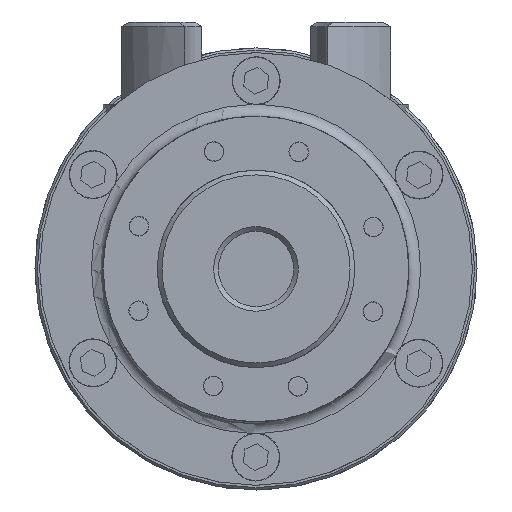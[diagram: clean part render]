
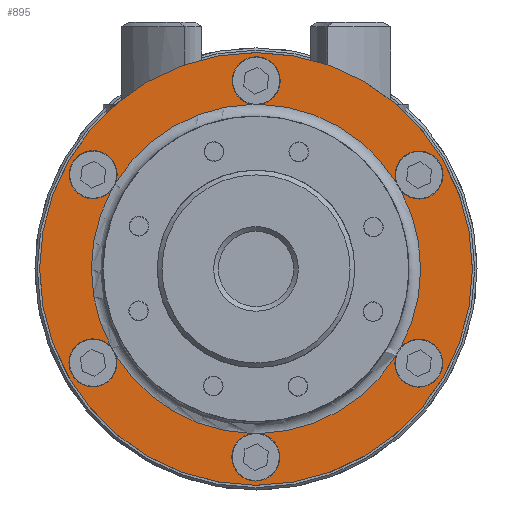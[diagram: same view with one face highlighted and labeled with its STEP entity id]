
A CAD part, left-side view. The second image highlights one B-rep face of the part: STEP entity #895.
In plain terms, the highlighted planar face has unit normal (-1, 0, 0).
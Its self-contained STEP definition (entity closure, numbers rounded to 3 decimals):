
#895 = ADVANCED_FACE( '', ( #1714, #1715 ), #1716, .F. );
#1714 = FACE_OUTER_BOUND( '', #2858, .T. );
#1715 = FACE_BOUND( '', #2859, .T. );
#1716 = PLANE( '', #2860 );
#2858 = EDGE_LOOP( '', ( #4575 ) );
#2859 = EDGE_LOOP( '', ( #4576, #4577, #4578, #4579, #4580, #4581, #4582, #4583, #4584, #4585, #4586, #4587 ) );
#2860 = AXIS2_PLACEMENT_3D( '', #4588, #4589, #4590 );
#4575 = ORIENTED_EDGE( '', *, *, #6739, .T. );
#4576 = ORIENTED_EDGE( '', *, *, #6771, .T. );
#4577 = ORIENTED_EDGE( '', *, *, #6799, .T. );
#4578 = ORIENTED_EDGE( '', *, *, #6780, .T. );
#4579 = ORIENTED_EDGE( '', *, *, #6803, .T. );
#4580 = ORIENTED_EDGE( '', *, *, #6778, .T. );
#4581 = ORIENTED_EDGE( '', *, *, #6804, .T. );
#4582 = ORIENTED_EDGE( '', *, *, #6776, .T. );
#4583 = ORIENTED_EDGE( '', *, *, #6805, .T. );
#4584 = ORIENTED_EDGE( '', *, *, #6774, .T. );
#4585 = ORIENTED_EDGE( '', *, *, #6806, .T. );
#4586 = ORIENTED_EDGE( '', *, *, #6773, .T. );
#4587 = ORIENTED_EDGE( '', *, *, #6807, .T. );
#4588 = CARTESIAN_POINT( '', ( -22., 46., 0. ) );
#4589 = DIRECTION( '', ( 1., 0., 0. ) );
#4590 = DIRECTION( '', ( 0., 1., 0. ) );
#6739 = EDGE_CURVE( '', #7764, #7764, #7765, .F. );
#6771 = EDGE_CURVE( '', #7819, #7668, #7820, .T. );
#6773 = EDGE_CURVE( '', #7808, #7821, #7823, .T. );
#6774 = EDGE_CURVE( '', #7824, #7809, #7825, .T. );
#6776 = EDGE_CURVE( '', #7828, #7826, #7829, .T. );
#6778 = EDGE_CURVE( '', #7832, #7830, #7833, .T. );
#6780 = EDGE_CURVE( '', #7667, #7834, #7836, .T. );
#6799 = EDGE_CURVE( '', #7668, #7667, #7863, .T. );
#6803 = EDGE_CURVE( '', #7834, #7832, #7868, .T. );
#6804 = EDGE_CURVE( '', #7830, #7828, #7869, .T. );
#6805 = EDGE_CURVE( '', #7826, #7824, #7870, .T. );
#6806 = EDGE_CURVE( '', #7809, #7808, #7871, .T. );
#6807 = EDGE_CURVE( '', #7821, #7819, #7872, .T. );
#7667 = VERTEX_POINT( '', #9421 );
#7668 = VERTEX_POINT( '', #9422 );
#7764 = VERTEX_POINT( '', #9552 );
#7765 = CIRCLE( '', #9553, 46. );
#7808 = VERTEX_POINT( '', #9600 );
#7809 = VERTEX_POINT( '', #9601 );
#7819 = VERTEX_POINT( '', #9617 );
#7820 = CIRCLE( '', #9618, 35. );
#7821 = VERTEX_POINT( '', #9619 );
#7823 = CIRCLE( '', #9621, 35. );
#7824 = VERTEX_POINT( '', #9622 );
#7825 = CIRCLE( '', #9623, 35. );
#7826 = VERTEX_POINT( '', #9624 );
#7828 = VERTEX_POINT( '', #9626 );
#7829 = CIRCLE( '', #9627, 35. );
#7830 = VERTEX_POINT( '', #9628 );
#7832 = VERTEX_POINT( '', #9630 );
#7833 = CIRCLE( '', #9631, 35. );
#7834 = VERTEX_POINT( '', #9632 );
#7836 = CIRCLE( '', #9634, 35. );
#7863 = CIRCLE( '', #9679, 5.1 );
#7868 = CIRCLE( '', #9686, 5.1 );
#7869 = CIRCLE( '', #9687, 5.1 );
#7870 = CIRCLE( '', #9688, 5.1 );
#7871 = CIRCLE( '', #9689, 5.1 );
#7872 = CIRCLE( '', #9690, 5.1 );
#9421 = CARTESIAN_POINT( '', ( -22., 29.83, 18.308 ) );
#9422 = CARTESIAN_POINT( '', ( -22., 30.77, 16.68 ) );
#9552 = CARTESIAN_POINT( '', ( -22., 0., -46. ) );
#9553 = AXIS2_PLACEMENT_3D( '', #11883, #11884, #11885 );
#9600 = CARTESIAN_POINT( '', ( -22., 0.94, -34.987 ) );
#9601 = CARTESIAN_POINT( '', ( -22., -0.94, -34.987 ) );
#9617 = CARTESIAN_POINT( '', ( -22., 30.77, -16.68 ) );
#9618 = AXIS2_PLACEMENT_3D( '', #11965, #11966, #11967 );
#9619 = CARTESIAN_POINT( '', ( -22., 29.83, -18.308 ) );
#9621 = AXIS2_PLACEMENT_3D( '', #11971, #11972, #11973 );
#9622 = CARTESIAN_POINT( '', ( -22., -29.83, -18.308 ) );
#9623 = AXIS2_PLACEMENT_3D( '', #11974, #11975, #11976 );
#9624 = CARTESIAN_POINT( '', ( -22., -30.77, -16.68 ) );
#9626 = CARTESIAN_POINT( '', ( -22., -30.77, 16.68 ) );
#9627 = AXIS2_PLACEMENT_3D( '', #11980, #11981, #11982 );
#9628 = CARTESIAN_POINT( '', ( -22., -29.83, 18.308 ) );
#9630 = CARTESIAN_POINT( '', ( -22., -0.94, 34.987 ) );
#9631 = AXIS2_PLACEMENT_3D( '', #11986, #11987, #11988 );
#9632 = CARTESIAN_POINT( '', ( -22., 0.94, 34.987 ) );
#9634 = AXIS2_PLACEMENT_3D( '', #11992, #11993, #11994 );
#9679 = AXIS2_PLACEMENT_3D( '', #12031, #12032, #12033 );
#9686 = AXIS2_PLACEMENT_3D( '', #12039, #12040, #12041 );
#9687 = AXIS2_PLACEMENT_3D( '', #12042, #12043, #12044 );
#9688 = AXIS2_PLACEMENT_3D( '', #12045, #12046, #12047 );
#9689 = AXIS2_PLACEMENT_3D( '', #12048, #12049, #12050 );
#9690 = AXIS2_PLACEMENT_3D( '', #12051, #12052, #12053 );
#11883 = CARTESIAN_POINT( '', ( -22., 0., 0. ) );
#11884 = DIRECTION( '', ( 1., 0., 0. ) );
#11885 = DIRECTION( '', ( 0., 0., -1. ) );
#11965 = CARTESIAN_POINT( '', ( -22., 0., 0. ) );
#11966 = DIRECTION( '', ( 1., 0., 0. ) );
#11967 = DIRECTION( '', ( 0., 0., -1. ) );
#11971 = CARTESIAN_POINT( '', ( -22., 0., 0. ) );
#11972 = DIRECTION( '', ( 1., 0., 0. ) );
#11973 = DIRECTION( '', ( 0., 0., -1. ) );
#11974 = CARTESIAN_POINT( '', ( -22., 0., 0. ) );
#11975 = DIRECTION( '', ( 1., 0., 0. ) );
#11976 = DIRECTION( '', ( 0., 0., -1. ) );
#11980 = CARTESIAN_POINT( '', ( -22., 0., 0. ) );
#11981 = DIRECTION( '', ( 1., 0., 0. ) );
#11982 = DIRECTION( '', ( 0., 0., -1. ) );
#11986 = CARTESIAN_POINT( '', ( -22., 0., 0. ) );
#11987 = DIRECTION( '', ( 1., 0., 0. ) );
#11988 = DIRECTION( '', ( 0., 0., -1. ) );
#11992 = CARTESIAN_POINT( '', ( -22., 0., 0. ) );
#11993 = DIRECTION( '', ( 1., 0., 0. ) );
#11994 = DIRECTION( '', ( 0., 0., -1. ) );
#12031 = CARTESIAN_POINT( '', ( -22., 34.641, 20. ) );
#12032 = DIRECTION( '', ( 1., 0., 0. ) );
#12033 = DIRECTION( '', ( 0., 0., -1. ) );
#12039 = CARTESIAN_POINT( '', ( -22., 0., 40. ) );
#12040 = DIRECTION( '', ( 1., 0., 0. ) );
#12041 = DIRECTION( '', ( 0., 0., -1. ) );
#12042 = CARTESIAN_POINT( '', ( -22., -34.641, 20. ) );
#12043 = DIRECTION( '', ( 1., 0., 0. ) );
#12044 = DIRECTION( '', ( 0., 0., -1. ) );
#12045 = CARTESIAN_POINT( '', ( -22., -34.641, -20. ) );
#12046 = DIRECTION( '', ( 1., 0., 0. ) );
#12047 = DIRECTION( '', ( 0., 0., -1. ) );
#12048 = CARTESIAN_POINT( '', ( -22., 0., -40. ) );
#12049 = DIRECTION( '', ( 1., 0., 0. ) );
#12050 = DIRECTION( '', ( 0., 0., -1. ) );
#12051 = CARTESIAN_POINT( '', ( -22., 34.641, -20. ) );
#12052 = DIRECTION( '', ( 1., 0., 0. ) );
#12053 = DIRECTION( '', ( 0., 0., -1. ) );
